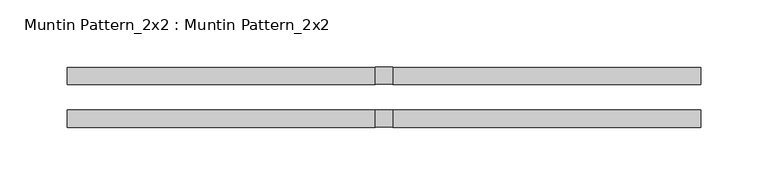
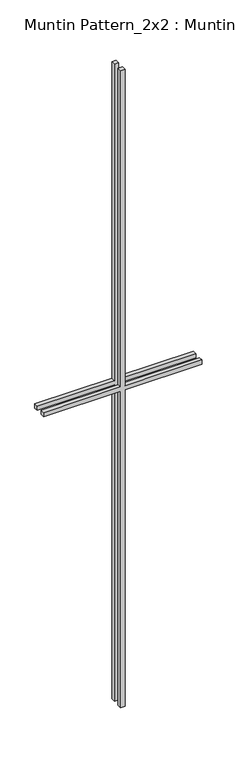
"""IFC4 building model written with IfcOpenShell, lengths in millimetres: proxy geometry, Muntin Pattern_2x2 : Muntin Pattern_2x2."""

from ifc_helpers import new_model, si_unit, frame, origin, place, context, project, spatial, polyline, outline, extrude, source, transform, mapped, element, save


def muntin_pattern_2x2_muntin_pattern_2x2_28477c7b(model_context):
    return source(origin(), model_context, "Body", "SweptSolid", [
        extrude(outline(polyline([(1003.3, -6.35), (1003.3, -234.95), (990.6, -234.95), (990.6, -6.35), (0.0, -6.35), (0.0, 6.35), (990.6, 6.35), (990.6, 234.95), (1003.3, 234.95), (1003.3, 6.35), (1993.9, 6.35), (1993.9, -6.35), (1003.3, -6.35)])), frame((0.0, 9.525, 0.0), z_axis=(0.0, 1.0, 0.0), x_axis=(0.0, 0.0, 1.0)), (0.0, 0.0, 1.0), 12.7),
        extrude(outline(polyline([(1003.3, -6.35), (1003.3, -234.95), (990.6, -234.95), (990.6, -6.35), (0.0, -6.35), (0.0, 6.35), (990.6, 6.35), (990.6, 234.95), (1003.3, 234.95), (1003.3, 6.35), (1993.9, 6.35), (1993.9, -6.35), (1003.3, -6.35)])), frame((0.0, -22.225, 0.0), z_axis=(0.0, 1.0, 0.0), x_axis=(0.0, 0.0, 1.0)), (0.0, 0.0, 1.0), 12.7),
    ])


if __name__ == "__main__":
    model = new_model("IFC4")
    model_context = context("Model", 3, world=origin())
    ifc_project = project(units=[si_unit("LENGTHUNIT", "METRE", prefix="MILLI")], contexts=[model_context])
    site = spatial("IfcSite", under=ifc_project)
    building = spatial("IfcBuilding", under=site)
    placement = place(None, origin())
    muntin_pattern_2x2_muntin_pattern_2x2_shape = muntin_pattern_2x2_muntin_pattern_2x2_28477c7b(model_context)
    element("IfcBuildingElementProxy", 1, Name="Muntin Pattern_2x2 : Muntin Pattern_2x2", ObjectType="Muntin Pattern_2x2 : Muntin Pattern_2x2", at=placement, inside=building, context=model_context, shape_type="MappedRepresentation", body=[
        mapped(muntin_pattern_2x2_muntin_pattern_2x2_shape, transform((0.0, 0.0, 0.0), x_axis=(1.0, 0.0, 0.0), y_axis=(0.0, 1.0, 0.0), z_axis=(0.0, 0.0, 1.0))),
    ])
    save(model, "model.ifc")
